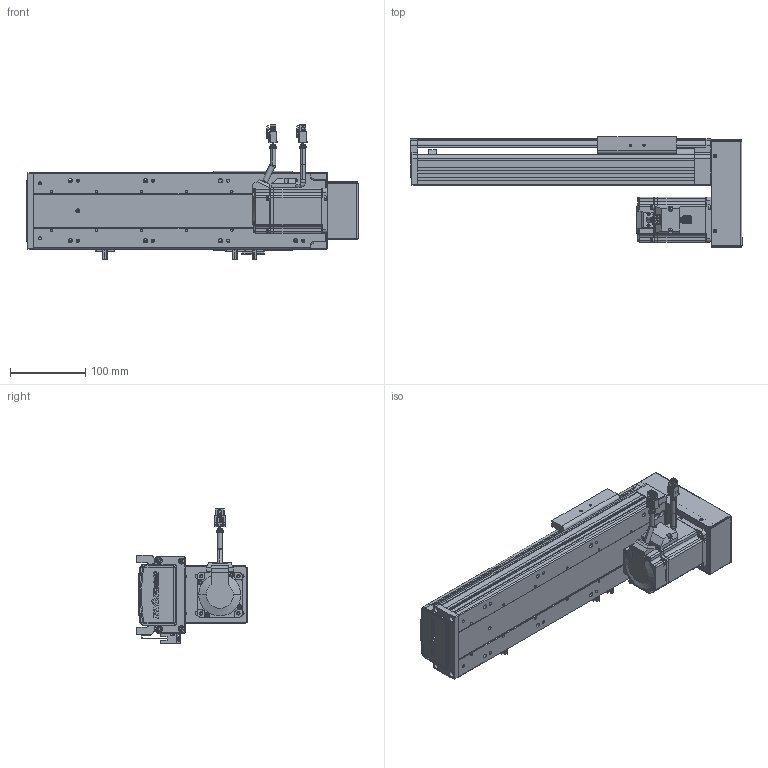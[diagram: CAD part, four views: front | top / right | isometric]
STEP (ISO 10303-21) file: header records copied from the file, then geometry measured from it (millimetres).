
FILE_DESCRIPTION (( 'STEP AP203' ), '1' );
FILE_NAME ('RY100S-L1620-300-BK(15双轨).SLDASM_200.step', '2021-02-20T08:22:46', ( '盈信电脑' ), ( '东莞市道滘镇水果街19号' ), 'SwSTEP 2.0', 'SolidWorks 2012', '' );
FILE_SCHEMA (( 'CONFIG_CONTROL_DESIGN' ));
Products named in the file (26): RY100S下折电机安装板（15双轨）; RY100S-L1620-300-BK(15邧寢).SLDASM_200; RY100S-狟殏萇儂郪; 6; 肮祭湍5M遵15笚酗260; 7; 侂狟200W萇儂; 5; 4; 3; 2; RY80肮祭湍覃踡啣; 1; 3M30喘15遵; RY100S狟殏萇儂欶(15邧寢); RY100S-絳寢EGH15-350-LK(腴郪15邧寢)_200; RY80肮祭湍芢雄輸; RY100綴裔啣; RY100S转折电机端支撑座(15双轨); 滅袉蝶18-24; RY100俋离覜茼え; 滅袉蝶18-10; RY100S-300-LK转折型材上盖(15双轨)_200; RY100S-350-LK型材底座(低组15双轨)_200; 覜茼ん672; RY100S铝滑块（15双轨单滑块）底组装导轨
Assembly tree (28 placements, depth 4):
  RY100S-L1620-300-BK(15邧寢).SLDASM_200
    RY100S-350-LK型材底座(低组15双轨)_200
    RY100S-300-LK转折型材上盖(15双轨)_200
    RY100S铝滑块（15双轨单滑块）底组装导轨
    覜茼ん672  x3
    滅袉蝶18-10
    RY100俋离覜茼え
    RY100S转折电机端支撑座(15双轨)
    滅袉蝶18-24
    RY100綴裔啣
    RY100S-絳寢EGH15-350-LK(腴郪15邧寢)_200
    RY100S-狟殏萇儂郪
      RY80肮祭湍芢雄輸  x2
      RY100S狟殏萇儂欶(15邧寢)
      3M30喘15遵
      RY80肮祭湍覃踡啣
      侂狟200W萇儂
        1
        2
        3
        4
        5
        6
        7
      肮祭湍5M遵15笚酗260
      RY100S下折电机安装板（15双轨）
Bounding box: 442 x 147 x 179.5 mm (x, y, z)
Volume: 1470254.2 mm3; surface area: 539493.3 mm2
Topology: 26 solids, 26 shells, 3145 faces, 8443 edges, 5438 vertices
Faces by surface type: plane 1687, cylinder 1175, cone 169, bspline 114
Entity records: 101736 total; most frequent: CARTESIAN_POINT 24954, ORIENTED_EDGE 15590, DIRECTION 15200, EDGE_CURVE 7795, AXIS2_PLACEMENT_3D 5155, VERTEX_POINT 5074, VECTOR 4890, LINE 4890
